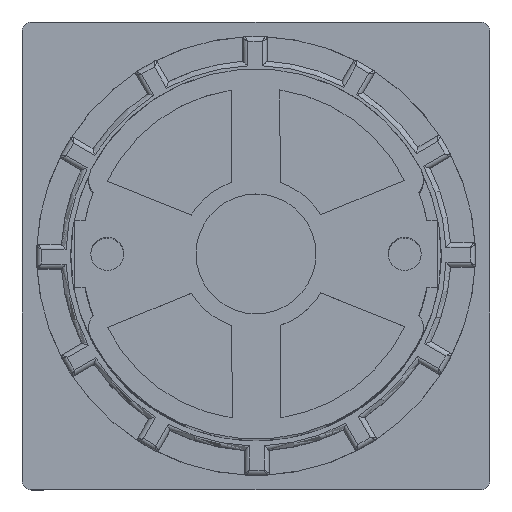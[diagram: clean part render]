
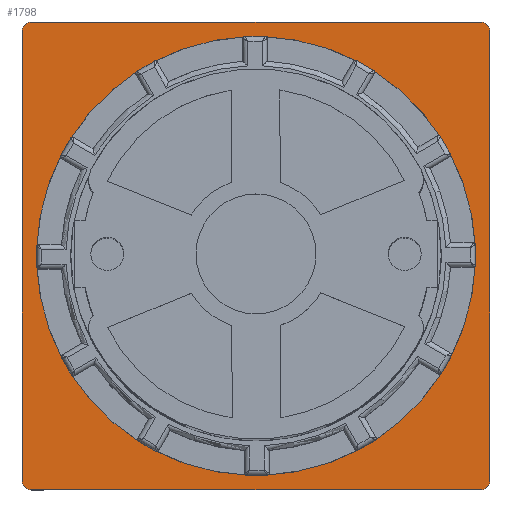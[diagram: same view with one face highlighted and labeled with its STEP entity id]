
A CAD part, top view. The second image highlights one B-rep face of the part: STEP entity #1798.
In plain terms, the highlighted planar face has unit normal (0, 0, 1).
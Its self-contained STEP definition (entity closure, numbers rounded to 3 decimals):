
#1798=ADVANCED_FACE('',(#8763,#8764),#3048,.F.);
#3048=PLANE('',#24974);
#4208=LINE('',#35245,#6374);
#4209=LINE('',#35250,#6375);
#4210=LINE('',#35254,#6376);
#4211=LINE('',#35258,#6377);
#6374=VECTOR('',#27708,1.);
#6375=VECTOR('',#27711,1.);
#6376=VECTOR('',#27714,1.);
#6377=VECTOR('',#27717,1.);
#8763=FACE_BOUND('',#9355,.T.);
#8764=FACE_BOUND('',#9356,.T.);
#9355=EDGE_LOOP('',(#11529,#11530,#11531,#11532,#11533,#11534,#11535,#11536));
#9356=EDGE_LOOP('',(#11537));
#11529=ORIENTED_EDGE('',*,*,#20678,.F.);
#11530=ORIENTED_EDGE('',*,*,#20679,.F.);
#11531=ORIENTED_EDGE('',*,*,#20680,.F.);
#11532=ORIENTED_EDGE('',*,*,#20681,.F.);
#11533=ORIENTED_EDGE('',*,*,#20682,.F.);
#11534=ORIENTED_EDGE('',*,*,#20683,.F.);
#11535=ORIENTED_EDGE('',*,*,#20684,.F.);
#11536=ORIENTED_EDGE('',*,*,#20685,.F.);
#11537=ORIENTED_EDGE('',*,*,#20640,.T.);
#18120=VERTEX_POINT('',#35150);
#18138=VERTEX_POINT('',#35246);
#18139=VERTEX_POINT('',#35247);
#18140=VERTEX_POINT('',#35249);
#18141=VERTEX_POINT('',#35251);
#18142=VERTEX_POINT('',#35253);
#18143=VERTEX_POINT('',#35255);
#18144=VERTEX_POINT('',#35257);
#18145=VERTEX_POINT('',#35259);
#20640=EDGE_CURVE('',#18120,#18120,#23914,.T.);
#20678=EDGE_CURVE('',#18138,#18139,#4208,.T.);
#20679=EDGE_CURVE('',#18140,#18138,#23944,.T.);
#20680=EDGE_CURVE('',#18141,#18140,#4209,.T.);
#20681=EDGE_CURVE('',#18142,#18141,#23945,.T.);
#20682=EDGE_CURVE('',#18143,#18142,#4210,.T.);
#20683=EDGE_CURVE('',#18144,#18143,#23946,.T.);
#20684=EDGE_CURVE('',#18145,#18144,#4211,.T.);
#20685=EDGE_CURVE('',#18139,#18145,#23947,.T.);
#23914=CIRCLE('',#24932,22.5);
#23944=CIRCLE('',#24970,1.);
#23945=CIRCLE('',#24971,1.);
#23946=CIRCLE('',#24972,1.);
#23947=CIRCLE('',#24973,1.);
#24932=AXIS2_PLACEMENT_3D('',#35149,#27624,#27625);
#24970=AXIS2_PLACEMENT_3D('',#35248,#27709,#27710);
#24971=AXIS2_PLACEMENT_3D('',#35252,#27712,#27713);
#24972=AXIS2_PLACEMENT_3D('',#35256,#27715,#27716);
#24973=AXIS2_PLACEMENT_3D('',#35260,#27718,#27719);
#24974=AXIS2_PLACEMENT_3D('',#35261,#27720,#27721);
#27624=DIRECTION('',(0.,0.,-1.));
#27625=DIRECTION('',(0.,1.,0.));
#27708=DIRECTION('',(0.,1.,0.));
#27709=DIRECTION('',(0.,0.,-1.));
#27710=DIRECTION('',(1.,0.,0.));
#27711=DIRECTION('',(-1.,0.,0.));
#27712=DIRECTION('',(0.,0.,-1.));
#27713=DIRECTION('',(1.,0.,0.));
#27714=DIRECTION('',(0.,-1.,0.));
#27715=DIRECTION('',(0.,0.,-1.));
#27716=DIRECTION('',(1.,0.,0.));
#27717=DIRECTION('',(1.,0.,0.));
#27718=DIRECTION('',(0.,0.,-1.));
#27719=DIRECTION('',(1.,0.,0.));
#27720=DIRECTION('',(0.,0.,-1.));
#27721=DIRECTION('',(-1.,0.,0.));
#35149=CARTESIAN_POINT('',(0.,0.,-18.4));
#35150=CARTESIAN_POINT('',(0.,22.5,-18.4));
#35245=CARTESIAN_POINT('',(-24.,-23.,-18.4));
#35246=CARTESIAN_POINT('',(-24.,-23.,-18.4));
#35247=CARTESIAN_POINT('',(-24.,23.,-18.4));
#35248=CARTESIAN_POINT('',(-23.,-23.,-18.4));
#35249=CARTESIAN_POINT('',(-23.,-24.,-18.4));
#35250=CARTESIAN_POINT('',(23.,-24.,-18.4));
#35251=CARTESIAN_POINT('',(23.,-24.,-18.4));
#35252=CARTESIAN_POINT('',(23.,-23.,-18.4));
#35253=CARTESIAN_POINT('',(24.,-23.,-18.4));
#35254=CARTESIAN_POINT('',(24.,23.,-18.4));
#35255=CARTESIAN_POINT('',(24.,23.,-18.4));
#35256=CARTESIAN_POINT('',(23.,23.,-18.4));
#35257=CARTESIAN_POINT('',(23.,24.,-18.4));
#35258=CARTESIAN_POINT('',(-23.,24.,-18.4));
#35259=CARTESIAN_POINT('',(-23.,24.,-18.4));
#35260=CARTESIAN_POINT('',(-23.,23.,-18.4));
#35261=CARTESIAN_POINT('',(-23.,23.,-18.4));
